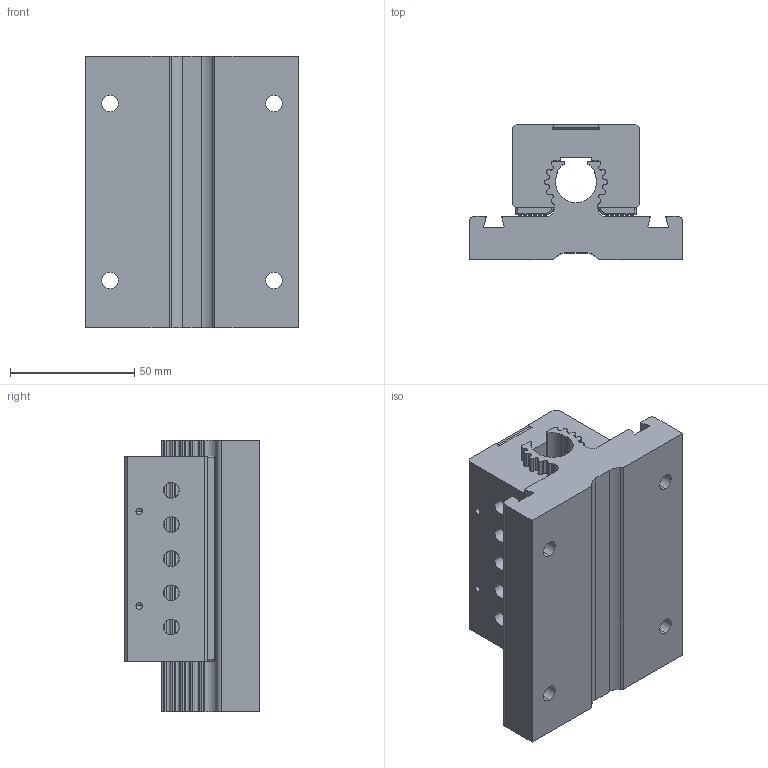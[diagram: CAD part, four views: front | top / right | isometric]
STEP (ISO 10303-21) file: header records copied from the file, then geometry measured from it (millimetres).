
FILE_DESCRIPTION (( 'STEP AP214' ), '1' );
FILE_NAME ('AMETEK-RGW10KN-A00-0000-01.00-001.STEP', '2022-03-07T07:16:13', ( '' ), ( '' ), 'SwSTEP 2.0', 'SolidWorks 2021', '' );
FILE_SCHEMA (( 'AUTOMOTIVE_DESIGN' ));
Length unit declared in the file: inch
Products named in the file (5): Bushing Cover RGS10000; Shaft extrusion RGS10000; AMETEK-RGW10KN-A00-0000-01.00-001; 85460; Outrigger RGS10
Assembly tree (5 placements, depth 2):
  AMETEK-RGW10KN-A00-0000-01.00-001
    Shaft extrusion RGS10000
    Outrigger RGS10  x2
    85460
    Bushing Cover RGS10000
Bounding box: 85.72 x 54.52 x 109.22 mm (x, y, z)
Volume: 280606.9 mm3; surface area: 75038.9 mm2
Topology: 5 solids, 5 shells, 593 faces, 1678 edges, 1096 vertices
Faces by surface type: plane 275, cylinder 243, cone 32, bspline 31, torus 12
Entity records: 25330 total; most frequent: CARTESIAN_POINT 5109, ORIENTED_EDGE 2978, DIRECTION 2493, EDGE_CURVE 1489, VERTEX_POINT 984, AXIS2_PLACEMENT_3D 845, VECTOR 803, LINE 803
